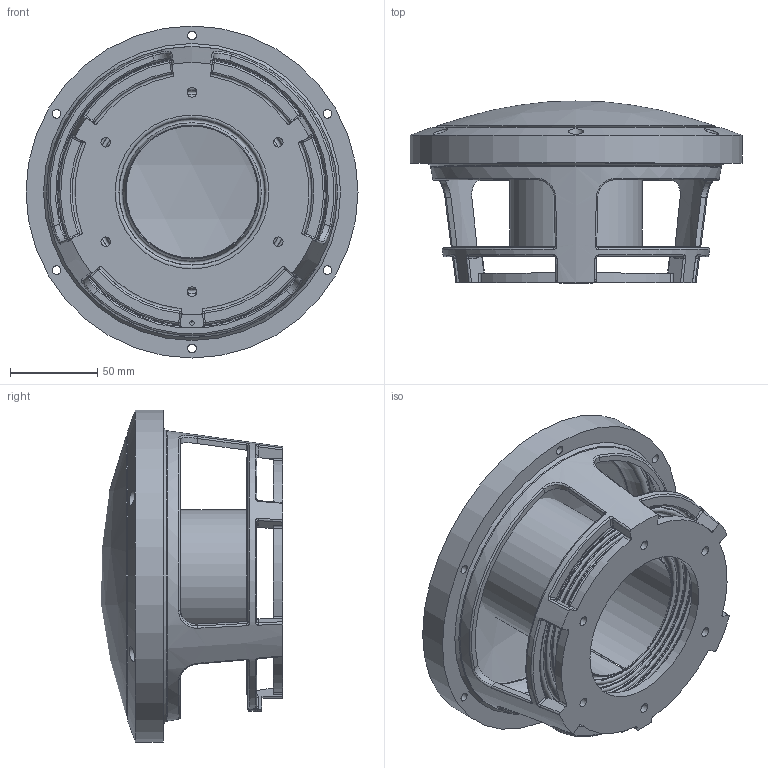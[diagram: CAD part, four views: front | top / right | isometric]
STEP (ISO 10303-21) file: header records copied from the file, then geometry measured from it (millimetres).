
FILE_DESCRIPTION (( 'STEP AP214' ), '1' );
FILE_NAME ('ASP190_reduced.STEP', '2024-09-23T10:51:47', ( '' ), ( '' ), 'SwSTEP 2.0', 'SolidWorks 2015', '' );
FILE_SCHEMA (( 'AUTOMOTIVE_DESIGN' ));
Length unit declared in the file: millimetre
Products named in the file (6): ZEN_01349_Reduced; ASM_160_AS190_01260_V2; VC_075,52-Ti-00_ASP190_01484_V01; GUS_158,80_AS190-251_01192_V02; KRB_190_AS190-251_01193_V04; ASP190_reduced
Assembly tree (5 placements, depth 2):
  ASP190_reduced
    KRB_190_AS190-251_01193_V04
    ASM_160_AS190_01260_V2
    GUS_158,80_AS190-251_01192_V02
    VC_075,52-Ti-00_ASP190_01484_V01
    ZEN_01349_Reduced
Bounding box: 190 x 104.08 x 190 mm (x, y, z)
Volume: 323645.2 mm3; surface area: 238102.1 mm2
Topology: 5 solids, 5 shells, 299 faces, 743 edges, 446 vertices
Faces by surface type: cylinder 86, bspline 60, torus 56, plane 53, cone 40, sphere 4
Full cylindrical faces by diameter (mm): 2.5 x1, 5 x6, 5.5 x6, 8.5 x6, 76.6 x1, 88 x1, 145 x1, 145.493 x1, 166 x1, 171 x1, 173 x2, 190 x1
Entity records: 11787 total; most frequent: CARTESIAN_POINT 5161, DIRECTION 1280, ORIENTED_EDGE 1272, EDGE_CURVE 636, AXIS2_PLACEMENT_3D 567, EDGE_LOOP 436, VERTEX_POINT 434, FACE_OUTER_BOUND 360
